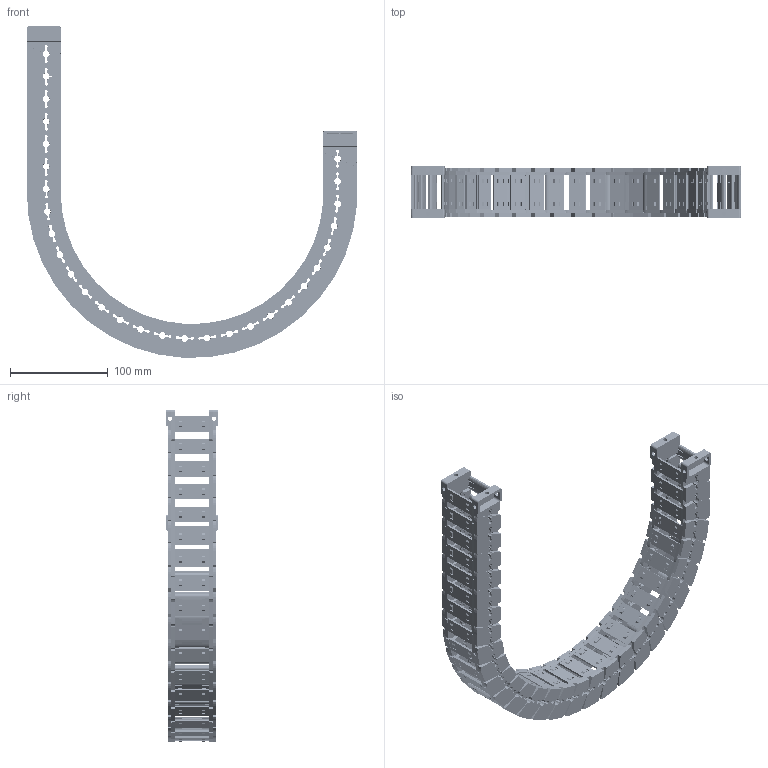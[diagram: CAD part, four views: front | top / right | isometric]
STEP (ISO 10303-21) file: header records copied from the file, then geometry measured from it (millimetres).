
FILE_DESCRIPTION((''),'2;1');
FILE_NAME('JY-28X35-R150_ASM','2026-03-25T20:45:55',('admin'),(''),'CREO PARAMETRIC BY PTC INC, 2021023','CREO PARAMETRIC BY PTC INC, 2021023','');
FILE_SCHEMA(('CONFIG_CONTROL_DESIGN'));
Length unit declared in the file: millimetre
Products named in the file (11): 28XL-L; 25-35XL-YP; 28XL-R; ASM0001_ASM; 28-LTT-A-L; 28-LTT-A-R; 28XL-LTT-A_ASM; 28-LTT-B-L; 28-LTT-B-R; 28XL-LTT-B_ASM; JY-28X35-R150_ASM
Assembly tree (42 placements, depth 3):
  JY-28X35-R150_ASM
    ASM0001_ASM  x28
      28XL-L
      25-35XL-YP
      28XL-R
    28XL-LTT-A_ASM
      28-LTT-A-L
      25-35XL-YP  x2
      28-LTT-A-R
    28XL-LTT-B_ASM
      28-LTT-B-L
      25-35XL-YP  x2
      28-LTT-B-R
Bounding box: 337.23 x 53.5 x 338.94 mm (x, y, z)
Volume: 407432.4 mm3; surface area: 296608.1 mm2
Topology: 120 solids, 120 shells, 9750 faces, 28988 edges, 19358 vertices
Faces by surface type: plane 6392, cone 1766, cylinder 1394, bspline 198
Entity records: 29175 total; most frequent: CARTESIAN_POINT 9500, ORIENTED_EDGE 4352, DIRECTION 3675, EDGE_CURVE 2176, VERTEX_POINT 1454, VECTOR 1365, LINE 1365, AXIS2_PLACEMENT_3D 1155
